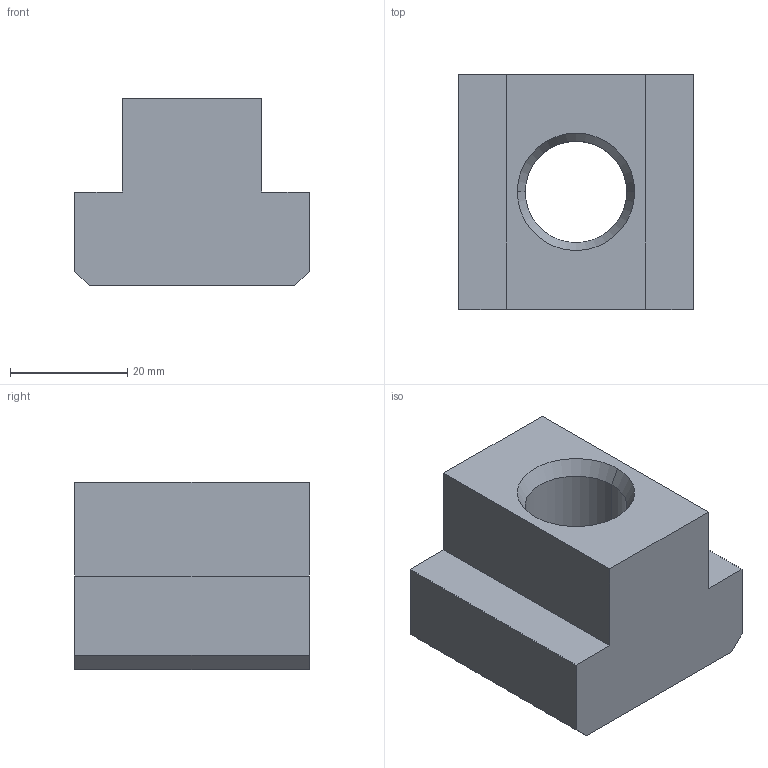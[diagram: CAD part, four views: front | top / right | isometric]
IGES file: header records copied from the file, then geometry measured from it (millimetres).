
Start section: 3D InterOp IGES (v. 2018 1.0.2), Spatial Corp. Copyright (c) 1999-2017.
Global section: file name: HWS_9016_20_22.igs; native system: Spatial Corp.; preprocessor: 3D InterOp GENERIC/IGES 3.0; author: Noname; organization: Noname; date: 20191010.134805; units: metre
Bounding box: 40 x 40 x 32 mm (x, y, z)
Surface area: 8839.1 mm2 (no closed solid volume)
Topology: 0 solids, 0 shells, 18 faces, 88 edges, 88 vertices
Faces by surface type: extrusion 12, revolution 6
